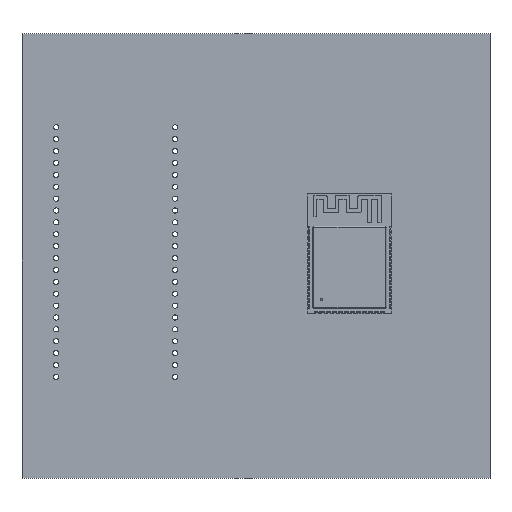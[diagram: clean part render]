
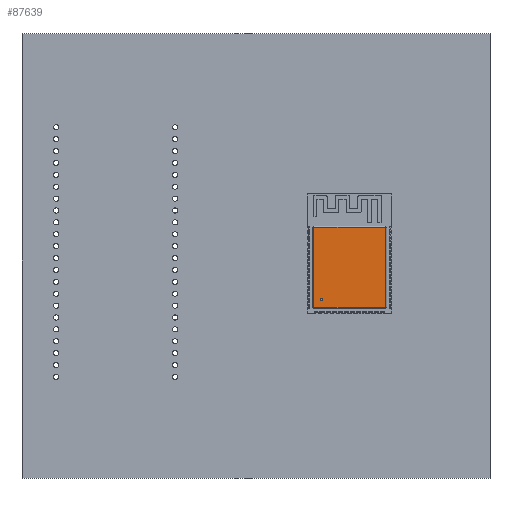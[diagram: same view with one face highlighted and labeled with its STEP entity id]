
A CAD part, top view. The second image highlights one B-rep face of the part: STEP entity #87639.
In plain terms, the highlighted planar face has unit normal (0, 0, 1).
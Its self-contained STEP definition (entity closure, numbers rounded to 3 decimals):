
#87170 = VERTEX_POINT('',#87171);
#87171 = CARTESIAN_POINT('',(3.22,2.94,3.1));
#87177 = EDGE_CURVE('',#87178,#87170,#87180,.T.);
#87178 = VERTEX_POINT('',#87179);
#87179 = CARTESIAN_POINT('',(2.72,2.94,3.1));
#87180 = CIRCLE('',#87181,0.25);
#87181 = AXIS2_PLACEMENT_3D('',#87182,#87183,#87184);
#87182 = CARTESIAN_POINT('',(2.97,2.94,3.1));
#87183 = DIRECTION('',(0.,0.,1.));
#87184 = DIRECTION('',(1.,0.,0.));
#87639 = ADVANCED_FACE('',(#87640,#87650),#87684,.T.);
#87640 = FACE_BOUND('',#87641,.T.);
#87641 = EDGE_LOOP('',(#87642,#87649));
#87642 = ORIENTED_EDGE('',*,*,#87643,.F.);
#87643 = EDGE_CURVE('',#87170,#87178,#87644,.T.);
#87644 = CIRCLE('',#87645,0.25);
#87645 = AXIS2_PLACEMENT_3D('',#87646,#87647,#87648);
#87646 = CARTESIAN_POINT('',(2.97,2.94,3.1));
#87647 = DIRECTION('',(0.,0.,1.));
#87648 = DIRECTION('',(1.,0.,0.));
#87649 = ORIENTED_EDGE('',*,*,#87177,.F.);
#87650 = FACE_BOUND('',#87651,.T.);
#87651 = EDGE_LOOP('',(#87652,#87662,#87670,#87678));
#87652 = ORIENTED_EDGE('',*,*,#87653,.T.);
#87653 = EDGE_CURVE('',#87654,#87656,#87658,.T.);
#87654 = VERTEX_POINT('',#87655);
#87655 = CARTESIAN_POINT('',(16.65,18.4,3.1));
#87656 = VERTEX_POINT('',#87657);
#87657 = CARTESIAN_POINT('',(1.35,18.4,3.1));
#87658 = LINE('',#87659,#87660);
#87659 = CARTESIAN_POINT('',(1.1,18.4,3.1));
#87660 = VECTOR('',#87661,1.);
#87661 = DIRECTION('',(-1.,0.,0.));
#87662 = ORIENTED_EDGE('',*,*,#87663,.T.);
#87663 = EDGE_CURVE('',#87656,#87664,#87666,.T.);
#87664 = VERTEX_POINT('',#87665);
#87665 = CARTESIAN_POINT('',(1.35,1.3,3.1));
#87666 = LINE('',#87667,#87668);
#87667 = CARTESIAN_POINT('',(1.35,1.05,3.1));
#87668 = VECTOR('',#87669,1.);
#87669 = DIRECTION('',(0.,-1.,0.));
#87670 = ORIENTED_EDGE('',*,*,#87671,.T.);
#87671 = EDGE_CURVE('',#87664,#87672,#87674,.T.);
#87672 = VERTEX_POINT('',#87673);
#87673 = CARTESIAN_POINT('',(16.65,1.3,3.1));
#87674 = LINE('',#87675,#87676);
#87675 = CARTESIAN_POINT('',(16.9,1.3,3.1));
#87676 = VECTOR('',#87677,1.);
#87677 = DIRECTION('',(1.,0.,0.));
#87678 = ORIENTED_EDGE('',*,*,#87679,.T.);
#87679 = EDGE_CURVE('',#87672,#87654,#87680,.T.);
#87680 = LINE('',#87681,#87682);
#87681 = CARTESIAN_POINT('',(16.65,18.65,3.1));
#87682 = VECTOR('',#87683,1.);
#87683 = DIRECTION('',(0.,1.,0.));
#87684 = PLANE('',#87685);
#87685 = AXIS2_PLACEMENT_3D('',#87686,#87687,#87688);
#87686 = CARTESIAN_POINT('',(9.,9.85,3.1));
#87687 = DIRECTION('',(0.,0.,1.));
#87688 = DIRECTION('',(1.,0.,0.));
